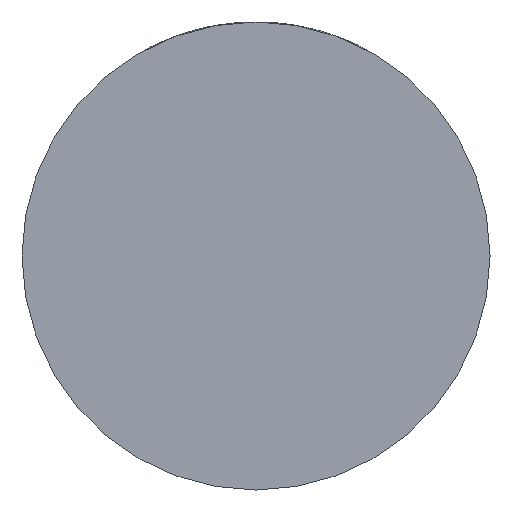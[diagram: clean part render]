
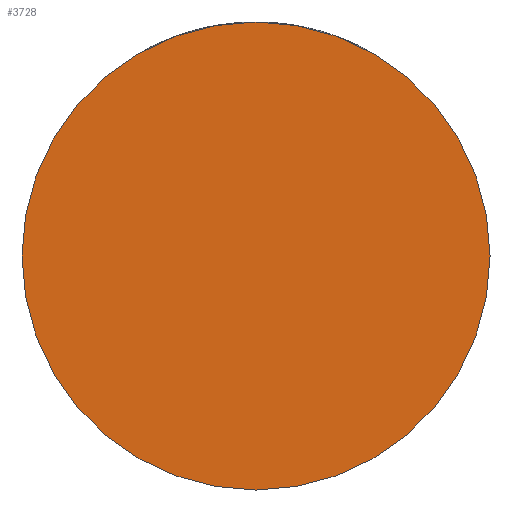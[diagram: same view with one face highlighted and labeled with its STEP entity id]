
A CAD part, front view. The second image highlights one B-rep face of the part: STEP entity #3728.
In plain terms, the highlighted planar face has unit normal (0, -1, 0).
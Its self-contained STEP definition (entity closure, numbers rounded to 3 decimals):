
#15 = ORIENTED_EDGE ( 'NONE', *, *, #2677, .T. ) ;
#475 = VERTEX_POINT ( 'NONE', #3464 ) ;
#515 = AXIS2_PLACEMENT_3D ( 'NONE', #1485, #3533, #3508 ) ;
#788 = AXIS2_PLACEMENT_3D ( 'NONE', #840, #1229, #4016 ) ;
#840 = CARTESIAN_POINT ( 'NONE',  ( 0., -42., 0. ) ) ;
#1229 = DIRECTION ( 'NONE',  ( 0., -1., 0. ) ) ;
#1315 = DIRECTION ( 'NONE',  ( 0., -1., 0. ) ) ;
#1485 = CARTESIAN_POINT ( 'NONE',  ( 0., -42., 0. ) ) ;
#1639 = CARTESIAN_POINT ( 'NONE',  ( 0., -42., 0. ) ) ;
#1855 = CARTESIAN_POINT ( 'NONE',  ( -49., -42., 0. ) ) ;
#1937 = ORIENTED_EDGE ( 'NONE', *, *, #2099, .T. ) ;
#2099 = EDGE_CURVE ( 'NONE', #2748, #475, #3449, .T. ) ;
#2275 = FACE_OUTER_BOUND ( 'NONE', #2746, .T. ) ;
#2626 = PLANE ( 'NONE',  #788 ) ;
#2677 = EDGE_CURVE ( 'NONE', #475, #2748, #3470, .T. ) ;
#2710 = DIRECTION ( 'NONE',  ( 1., 0., 0. ) ) ;
#2746 = EDGE_LOOP ( 'NONE', ( #1937, #15 ) ) ;
#2748 = VERTEX_POINT ( 'NONE', #1855 ) ;
#3380 = AXIS2_PLACEMENT_3D ( 'NONE', #1639, #1315, #2710 ) ;
#3449 = CIRCLE ( 'NONE', #3380, 49. ) ;
#3464 = CARTESIAN_POINT ( 'NONE',  ( 49., -42., 0. ) ) ;
#3470 = CIRCLE ( 'NONE', #515, 49. ) ;
#3508 = DIRECTION ( 'NONE',  ( 1., 0., 0. ) ) ;
#3533 = DIRECTION ( 'NONE',  ( 0., -1., 0. ) ) ;
#3728 = ADVANCED_FACE ( 'NONE', ( #2275 ), #2626, .T. ) ;
#4016 = DIRECTION ( 'NONE',  ( 1., 0., 0. ) ) ;
